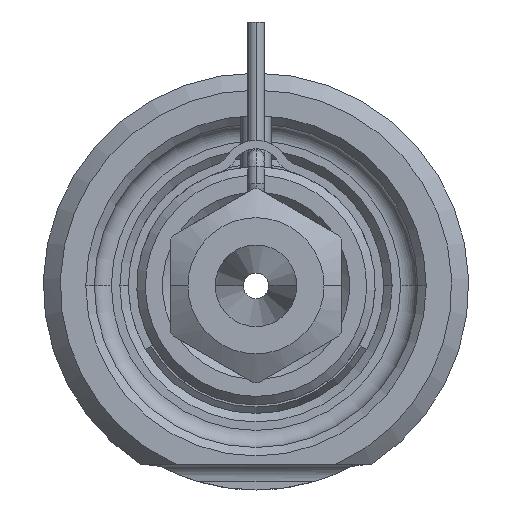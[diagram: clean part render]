
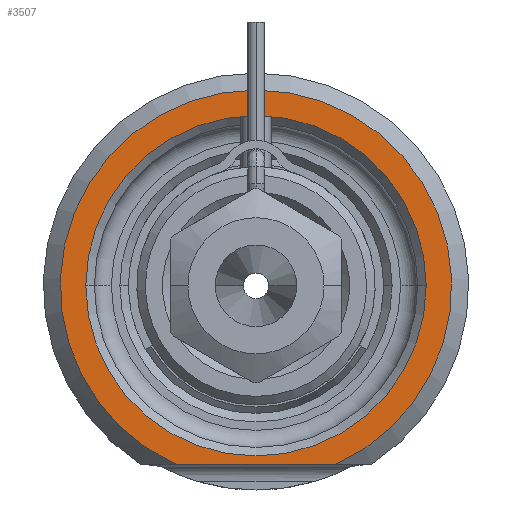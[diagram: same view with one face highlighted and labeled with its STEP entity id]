
A CAD part, front view. The second image highlights one B-rep face of the part: STEP entity #3507.
In plain terms, the highlighted planar face has unit normal (0, -1, 0).
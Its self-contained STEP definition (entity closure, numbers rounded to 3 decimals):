
#606=DIRECTION('',(1.,0.,0.));
#607=VECTOR('',#606,9.381);
#608=CARTESIAN_POINT('',(-4.69,0.,-10.5));
#609=LINE('',#608,#607);
#610=CARTESIAN_POINT('',(0.,0.,0.));
#611=DIRECTION('',(0.,1.,0.));
#612=DIRECTION('',(-1.,0.,0.));
#613=AXIS2_PLACEMENT_3D('',#610,#611,#612);
#615=CARTESIAN_POINT('',(0.,0.,0.));
#616=DIRECTION('',(0.,1.,0.));
#617=DIRECTION('',(1.,0.,0.));
#618=AXIS2_PLACEMENT_3D('',#615,#616,#617);
#689=CARTESIAN_POINT('',(0.,0.,0.));
#690=DIRECTION('',(0.,-1.,0.));
#691=DIRECTION('',(0.408,0.,-0.913));
#692=AXIS2_PLACEMENT_3D('',#689,#690,#691);
#2362=CARTESIAN_POINT('',(-10.,0.,0.));
#2363=CARTESIAN_POINT('',(10.,0.,0.));
#2364=VERTEX_POINT('',#2362);
#2365=VERTEX_POINT('',#2363);
#2420=CARTESIAN_POINT('',(-4.69,0.,-10.5));
#2421=CARTESIAN_POINT('',(4.69,0.,-10.5));
#2422=VERTEX_POINT('',#2420);
#2423=VERTEX_POINT('',#2421);
#3491=CARTESIAN_POINT('',(0.,0.,0.));
#3492=DIRECTION('',(0.,-1.,0.));
#3493=DIRECTION('',(1.,0.,0.));
#3494=AXIS2_PLACEMENT_3D('',#3491,#3492,#3493);
#3495=PLANE('',#3494);
#3497=ORIENTED_EDGE('',*,*,#3496,.F.);
#3499=ORIENTED_EDGE('',*,*,#3498,.F.);
#3500=EDGE_LOOP('',(#3497,#3499));
#3501=FACE_OUTER_BOUND('',#3500,.F.);
#3502=ORIENTED_EDGE('',*,*,#3481,.F.);
#3504=ORIENTED_EDGE('',*,*,#3503,.F.);
#3505=EDGE_LOOP('',(#3502,#3504));
#3506=FACE_BOUND('',#3505,.F.);
#3507=ADVANCED_FACE('',(#3501,#3506),#3495,.T.);
#614=CIRCLE('',#613,10.);
#619=CIRCLE('',#618,10.);
#693=CIRCLE('',#692,11.5);
#3481=EDGE_CURVE('',#2364,#2365,#614,.T.);
#3496=EDGE_CURVE('',#2422,#2423,#609,.T.);
#3498=EDGE_CURVE('',#2423,#2422,#693,.T.);
#3503=EDGE_CURVE('',#2365,#2364,#619,.T.);
